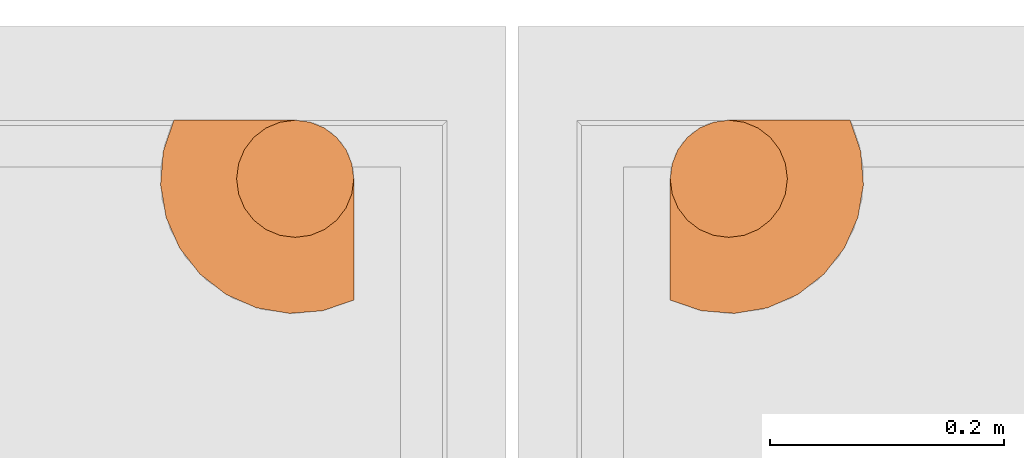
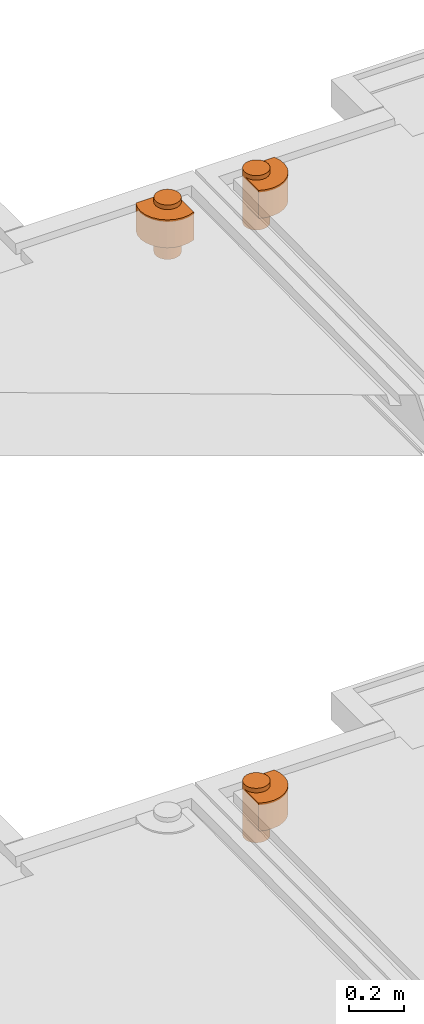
# One storey, part 25 of 31: 3 proxies, 3 elements without a shape of their own.
"""IFC2X3 building model written with IfcOpenShell, lengths in centimetres."""

from ifc_helpers import new_model, entity, si_unit, converted_unit, derived_unit, direction, frame, origin, place, context, subcontext, project, spatial, faceted_brep, source, transform, mapped, material, type_object, type_shapes, element, aggregate, save


model = new_model("IFC2X3")

# Units and contexts
model_context = context("Model", 3, precision=0.001, world=origin(), true_north=direction((6.12303176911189e-17, 1.0)))
body_context = subcontext(model_context, "Body", "Model", "MODEL_VIEW")
ifc_project = project(units=[si_unit("LENGTHUNIT", "METRE", prefix="CENTI"), si_unit("AREAUNIT", "SQUARE_METRE"), si_unit("VOLUMEUNIT", "CUBIC_METRE"), converted_unit("PLANEANGLEUNIT", "DEGREE", entity("IfcRatioMeasure", 0.0174532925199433), si_unit("PLANEANGLEUNIT", "RADIAN"), dimensions=[0, 0, 0, 0, 0, 0, 0]), si_unit("MASSUNIT", "GRAM", prefix="KILO"), derived_unit("MASSDENSITYUNIT", [(si_unit("MASSUNIT", "GRAM", prefix="KILO"), 1), (si_unit("LENGTHUNIT", "METRE"), -3)]), si_unit("TIMEUNIT", "SECOND"), si_unit("FREQUENCYUNIT", "HERTZ"), si_unit("THERMODYNAMICTEMPERATUREUNIT", "DEGREE_CELSIUS"), derived_unit("THERMALTRANSMITTANCEUNIT", [(si_unit("MASSUNIT", "GRAM", prefix="KILO"), 1), (si_unit("THERMODYNAMICTEMPERATUREUNIT", "KELVIN"), -1), (si_unit("TIMEUNIT", "SECOND"), -3)]), derived_unit("VOLUMETRICFLOWRATEUNIT", [(si_unit("LENGTHUNIT", "METRE"), 3), (si_unit("TIMEUNIT", "SECOND"), -1)]), si_unit("ELECTRICCURRENTUNIT", "AMPERE"), si_unit("ELECTRICVOLTAGEUNIT", "VOLT"), si_unit("POWERUNIT", "WATT"), si_unit("FORCEUNIT", "NEWTON"), si_unit("ILLUMINANCEUNIT", "LUX"), si_unit("LUMINOUSFLUXUNIT", "LUMEN"), si_unit("LUMINOUSINTENSITYUNIT", "CANDELA"), derived_unit("USERDEFINED", [(si_unit("MASSUNIT", "GRAM", prefix="KILO"), -1), (si_unit("LENGTHUNIT", "METRE"), -2), (si_unit("TIMEUNIT", "SECOND"), 3), (si_unit("LUMINOUSFLUXUNIT", "LUMEN"), 1)]), derived_unit("LINEARVELOCITYUNIT", [(si_unit("LENGTHUNIT", "METRE"), 1), (si_unit("TIMEUNIT", "SECOND"), -1)]), si_unit("PRESSUREUNIT", "PASCAL"), derived_unit("USERDEFINED", [(si_unit("LENGTHUNIT", "METRE"), -2), (si_unit("MASSUNIT", "GRAM", prefix="KILO"), 1), (si_unit("TIMEUNIT", "SECOND"), -2)])], contexts=[model_context])

# Site, building, storey
site_placement = place(None, origin())
site = spatial("IfcSite", under=ifc_project, at=site_placement, Name="Default", CompositionType="ELEMENT")
building_placement = place(site_placement, origin())
building = spatial("IfcBuilding", under=site, at=building_placement, Name="CAGE 03", CompositionType="ELEMENT")
storey_placement = place(building_placement, frame((0.0, 0.0, -400.0)))
storey = spatial("IfcBuildingStorey", under=building, at=storey_placement, Name="±0.00", CompositionType="ELEMENT", Elevation=-400.0)

# Assembly, proxy
assembly_1_placement = place(storey_placement, origin())
assembly_1 = element("IfcElementAssembly", 1, at=assembly_1_placement, inside=storey, Name="Assemblage Modèles génériques:BALCON TYPE 04", ObjectType="Assemblage Modèles génériques:BALCON TYPE 04", AssemblyPlace="NOTDEFINED", PredefinedType="USERDEFINED")
ifc_material = material(Name="BBGO_Résa")
building_element_proxy_type_1 = type_object("IfcBuildingElementProxyType", Name="Siphon de balcon", PredefinedType="NOTDEFINED", material=ifc_material)
shared_shape_1 = source(origin(), body_context, "Body", "Brep", [
    faceted_brep([(6.68784336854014, 14.159527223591, 9.69999999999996), (6.68784336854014, 14.1595272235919, 0.0), (6.18834125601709, 12.9536224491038, 0.0), (6.18834125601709, 12.9536224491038, 9.69999999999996), (6.68784336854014, 14.1595272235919, 22.0), (6.18834125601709, 12.9536224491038, 22.0), (6.18834125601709, 12.9536224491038, 24.0), (6.68784336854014, 14.1595272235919, 24.0), (6.01797038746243, 11.6595272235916, 0.0), (6.01797038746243, 11.6595272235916, 9.69999999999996), (6.01797038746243, 11.6595272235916, 22.0), (6.01797038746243, 11.6595272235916, 24.0), (6.18834125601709, 10.3654319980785, 9.69999999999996), (6.18834125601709, 10.3654319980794, 0.0), (6.68784336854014, 9.15952722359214, 0.0), (6.68784336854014, 9.15952722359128, 9.69999999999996), (6.18834125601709, 10.3654319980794, 22.0), (6.68784336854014, 9.15952722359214, 22.0), (6.68784336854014, 9.15952722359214, 24.0), (6.18834125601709, 10.3654319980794, 24.0), (7.48243648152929, 8.12399331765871, 0.0), (7.48243648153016, 8.12399331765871, 9.69999999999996), (7.48243648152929, 8.12399331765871, 24.0), (7.48243648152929, 8.12399331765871, 22.0), (7.48243648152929, 15.1950611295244, 9.69999999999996), (7.48243648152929, 15.1950611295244, 0.0), (7.48243648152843, 15.1950611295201, 22.0), (7.48243648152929, 15.1950611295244, 24.0), (8.51797038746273, 7.32940020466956, 9.69999999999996), (8.51797038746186, 7.32940020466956, 0.0), (9.72387516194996, 6.82989809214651, 0.0), (9.72387516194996, 6.82989809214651, 9.69999999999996), (8.51797038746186, 7.32940020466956, 22.0), (9.72387516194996, 6.82989809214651, 22.0), (9.72387516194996, 6.82989809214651, 24.0), (8.51797038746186, 7.32940020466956, 24.0), (11.0179703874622, 6.65952722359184, 0.0), (11.017970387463, 6.65952722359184, 9.69999999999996), (11.0179703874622, 6.65952722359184, 22.0), (11.0179703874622, 6.65952722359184, 24.0), (12.3120656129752, 6.82989809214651, 9.69999999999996), (12.3120656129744, 6.82989809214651, 0.0), (13.5179703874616, 7.32940020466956, 0.0), (13.5179703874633, 7.32940020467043, 9.69999999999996), (12.3120656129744, 6.82989809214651, 22.0), (13.5179703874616, 7.32940020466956, 22.0), (13.5179703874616, 7.32940020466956, 24.0), (12.3120656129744, 6.82989809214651, 24.0), (14.553504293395, 8.12399331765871, 0.0), (14.5535042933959, 8.12399331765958, 9.69999999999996), (14.553504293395, 8.12399331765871, 22.0), (14.553504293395, 8.12399331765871, 24.0), (15.3480974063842, 14.1595272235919, 22.0), (15.8475995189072, 12.9536224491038, 22.0), (16.0179703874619, 11.6595272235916, 22.0), (15.8475995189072, 10.3654319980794, 22.0), (15.3480974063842, 9.15952722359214, 22.0), (0.15952722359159, 7.87215187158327, 22.0), (1.41532336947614, 5.33187598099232, 22.0), (3.25417812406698, 3.17580577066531, 22.0), (5.56443893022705, 1.5348546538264, 22.0), (8.20583014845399, 0.508658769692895, 22.0), (11.017970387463, 0.15952722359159, 22.0), (13.8301106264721, 0.508658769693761, 22.0), (16.4715018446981, 1.53485465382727, 22.0), (18.7817626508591, 3.17580577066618, 22.0), (20.620617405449, 5.33187598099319, 22.0), (21.8764135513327, 7.872151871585, 22.0), (14.553504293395, 15.1950611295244, 22.0), (15.348097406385, 9.15952722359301, 9.69999999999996), (15.8475995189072, 10.3654319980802, 9.69999999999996), (16.0179703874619, 11.6595272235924, 9.69999999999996), (15.8475995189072, 12.9536224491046, 9.69999999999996), (15.3480974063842, 14.1595272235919, 9.69999999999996), (14.553504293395, 15.1950611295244, 9.69999999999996), (21.8764135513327, 7.872151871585, 9.69999999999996), (20.620617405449, 5.33187598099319, 9.69999999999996), (18.7817626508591, 3.17580577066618, 9.69999999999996), (16.4715018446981, 1.53485465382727, 9.69999999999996), (13.8301106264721, 0.508658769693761, 9.69999999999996), (11.017970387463, 0.15952722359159, 9.69999999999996), (8.20583014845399, 0.508658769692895, 9.69999999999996), (5.56443893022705, 1.5348546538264, 9.69999999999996), (3.25417812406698, 3.17580577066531, 9.69999999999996), (1.41532336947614, 5.33187598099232, 9.69999999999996), (0.15952722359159, 7.87215187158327, 9.69999999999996), (0.15952722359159, 7.87215187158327, 21.3763717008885), (21.8764135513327, 7.872151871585, 21.5299497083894), (15.3480974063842, 9.15952722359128, 24.0), (15.8475995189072, 10.3654319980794, 24.0), (16.0179703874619, 11.6595272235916, 24.0), (15.8475995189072, 12.9536224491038, 24.0), (15.3480974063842, 14.159527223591, 24.0), (14.553504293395, 15.1950611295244, 24.0), (13.5179703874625, 15.9896542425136, 24.0), (12.3120656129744, 16.4891563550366, 24.0), (11.0179703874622, 16.6595272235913, 24.0), (9.72387516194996, 16.4891563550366, 24.0), (8.51797038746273, 15.9896542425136, 24.0), (15.8475995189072, 10.3654319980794, 0.0), (15.3480974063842, 9.15952722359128, 0.0), (8.51797038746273, 15.9896542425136, 0.0), (9.72387516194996, 16.4891563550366, 0.0), (11.0179703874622, 16.6595272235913, 0.0), (12.3120656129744, 16.4891563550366, 0.0), (13.5179703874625, 15.9896542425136, 0.0), (14.553504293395, 15.1950611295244, 0.0), (15.3480974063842, 14.159527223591, 0.0), (15.8475995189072, 12.9536224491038, 0.0), (16.0179703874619, 11.6595272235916, 0.0)], [[[0, 1, 2, 3]], [[4, 5, 6, 7]], [[8, 9, 3, 2]], [[5, 10, 11, 6]], [[12, 13, 14, 15]], [[16, 17, 18, 19]], [[8, 13, 12, 9]], [[10, 16, 19, 11]], [[15, 14, 20, 21]], [[22, 18, 17, 23]], [[1, 0, 24, 25]], [[26, 4, 7, 27]], [[28, 29, 30, 31]], [[32, 33, 34, 35]], [[36, 37, 31, 30]], [[33, 38, 39, 34]], [[40, 41, 42, 43]], [[44, 45, 46, 47]], [[36, 41, 40, 37]], [[38, 44, 47, 39]], [[43, 42, 48, 49]], [[45, 50, 51, 46]], [[29, 28, 21, 20]], [[32, 35, 22, 23]], [[52, 53, 54, 55, 56, 50, 45, 44, 38, 33, 32, 23, 17, 16, 10, 5, 4, 26, 57, 58, 59, 60, 61, 62, 63, 64, 65, 66, 67, 68]], [[21, 28, 31, 37, 40, 43, 49, 69, 70, 71, 72, 73, 74, 75, 76, 77, 78, 79, 80, 81, 82, 83, 84, 85, 24, 0, 3, 9, 12, 15]], [[57, 26, 24, 85, 86]], [[86, 85, 84, 58, 57]], [[83, 59, 58, 84]], [[60, 82, 81, 61]], [[83, 82, 60, 59]], [[61, 81, 80, 62]], [[78, 64, 63, 79]], [[77, 65, 64, 78]], [[76, 75, 87, 67, 66]], [[77, 76, 66, 65]], [[79, 63, 62, 80]], [[68, 67, 87, 75, 74]], [[18, 22, 35, 34, 39, 47, 46, 51, 88, 89, 90, 91, 92, 93, 94, 95, 96, 97, 98, 27, 7, 6, 11, 19]], [[99, 100, 48, 42, 41, 36, 30, 29, 20, 14, 13, 8, 2, 1, 25, 101, 102, 103, 104, 105, 106, 107, 108, 109]], [[48, 100, 69, 49]], [[51, 50, 56, 88]], [[99, 70, 69, 100]], [[56, 55, 89, 88]], [[109, 108, 72, 71]], [[54, 53, 91, 90]], [[109, 71, 70, 99]], [[54, 90, 89, 55]], [[108, 107, 73, 72]], [[91, 53, 52, 92]], [[74, 106, 105, 94, 93, 68]], [[107, 106, 74, 73]], [[52, 68, 93, 92]], [[94, 105, 104, 95]], [[101, 25, 24, 26, 27, 98]], [[96, 103, 102, 97]], [[101, 98, 97, 102]], [[95, 104, 103, 96]]]),
])
type_shapes(building_element_proxy_type_1, [shared_shape_1])
proxy_1_placement = place(assembly_1_placement, frame((7100.31946933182, 3949.62525373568, 988.0), z_axis=(0.0, 0.0, 1.0), x_axis=(0.707106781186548, 0.707106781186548, 0.0)))
proxy_1 = element("IfcBuildingElementProxy", 2, at=proxy_1_placement, type_object=building_element_proxy_type_1, material=ifc_material, Name="Siphon de balcon5:Siphon de balcon", ObjectType="Siphon de balcon", context=body_context, shape_type="MappedRepresentation", body=[
    mapped(shared_shape_1, transform((0.0, 0.0, 0.0), scale=1.0)),
])
aggregate(assembly_1, [proxy_1])

assembly_2_placement = place(storey_placement, origin())
assembly_2 = element("IfcElementAssembly", 3, at=assembly_2_placement, inside=storey, Name="Assemblage Modèles génériques:BALCON TYPE 03", ObjectType="Assemblage Modèles génériques:BALCON TYPE 03", AssemblyPlace="NOTDEFINED", PredefinedType="USERDEFINED")
building_element_proxy_type_2 = type_object("IfcBuildingElementProxyType", Name="Siphon de balcon", PredefinedType="NOTDEFINED", material=ifc_material)
shared_shape_2 = source(origin(), body_context, "Body", "Brep", [
    faceted_brep([(6.68784336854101, 14.159527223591, 9.69999999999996), (6.68784336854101, 14.1595272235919, 0.0), (6.18834125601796, 12.9536224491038, 0.0), (6.18834125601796, 12.9536224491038, 9.69999999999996), (6.68784336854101, 14.1595272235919, 22.0), (6.18834125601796, 12.9536224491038, 22.0), (6.18834125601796, 12.9536224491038, 24.0), (6.68784336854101, 14.1595272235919, 24.0), (6.01797038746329, 11.6595272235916, 0.0), (6.01797038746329, 11.6595272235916, 9.69999999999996), (6.01797038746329, 11.6595272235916, 22.0), (6.01797038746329, 11.6595272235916, 24.0), (6.18834125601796, 10.3654319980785, 9.69999999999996), (6.18834125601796, 10.3654319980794, 0.0), (6.68784336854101, 9.15952722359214, 0.0), (6.68784336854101, 9.15952722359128, 9.69999999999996), (6.18834125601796, 10.3654319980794, 22.0), (6.68784336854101, 9.15952722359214, 22.0), (6.68784336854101, 9.15952722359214, 24.0), (6.18834125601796, 10.3654319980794, 24.0), (7.48243648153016, 8.12399331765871, 0.0), (7.48243648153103, 8.12399331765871, 9.69999999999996), (7.48243648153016, 8.12399331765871, 24.0), (7.48243648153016, 8.12399331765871, 22.0), (7.48243648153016, 15.1950611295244, 9.69999999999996), (7.48243648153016, 15.1950611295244, 0.0), (7.48243648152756, 15.1950611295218, 22.0), (7.48243648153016, 15.1950611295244, 24.0), (8.51797038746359, 7.32940020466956, 9.69999999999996), (8.51797038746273, 7.32940020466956, 0.0), (9.72387516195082, 6.82989809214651, 0.0), (9.72387516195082, 6.82989809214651, 9.69999999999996), (8.51797038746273, 7.32940020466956, 22.0), (9.72387516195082, 6.82989809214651, 22.0), (9.72387516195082, 6.82989809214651, 24.0), (8.51797038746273, 7.32940020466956, 24.0), (11.017970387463, 6.65952722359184, 0.0), (11.0179703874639, 6.65952722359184, 9.69999999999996), (11.017970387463, 6.65952722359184, 22.0), (11.017970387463, 6.65952722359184, 24.0), (12.3120656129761, 6.82989809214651, 9.69999999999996), (12.3120656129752, 6.82989809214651, 0.0), (13.5179703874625, 7.32940020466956, 0.0), (13.5179703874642, 7.32940020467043, 9.69999999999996), (12.3120656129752, 6.82989809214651, 22.0), (13.5179703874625, 7.32940020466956, 22.0), (13.5179703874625, 7.32940020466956, 24.0), (12.3120656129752, 6.82989809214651, 24.0), (14.5535042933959, 8.12399331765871, 0.0), (14.5535042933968, 8.12399331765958, 9.69999999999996), (14.5535042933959, 8.12399331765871, 22.0), (14.5535042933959, 8.12399331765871, 24.0), (15.348097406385, 14.1595272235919, 22.0), (15.8475995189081, 12.9536224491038, 22.0), (16.0179703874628, 11.6595272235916, 22.0), (15.8475995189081, 10.3654319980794, 22.0), (15.348097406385, 9.15952722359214, 22.0), (0.15952722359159, 7.87215187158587, 22.0), (1.41532336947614, 5.33187598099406, 22.0), (3.25417812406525, 3.17580577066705, 22.0), (5.56443893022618, 1.53485465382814, 22.0), (8.20583014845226, 0.508658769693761, 22.0), (11.0179703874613, 0.15952722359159, 22.0), (13.8301106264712, 0.508658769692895, 22.0), (16.4715018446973, 1.5348546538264, 22.0), (18.7817626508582, 3.17580577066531, 22.0), (20.620617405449, 5.33187598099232, 22.0), (21.8764135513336, 7.87215187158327, 22.0), (14.5535042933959, 15.1950611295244, 22.0), (15.348097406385, 9.15952722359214, 9.69999999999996), (15.8475995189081, 10.3654319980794, 9.69999999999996), (16.0179703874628, 11.6595272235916, 9.69999999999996), (15.8475995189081, 12.9536224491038, 9.69999999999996), (15.348097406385, 14.159527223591, 9.69999999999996), (14.5535042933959, 15.1950611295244, 9.69999999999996), (21.8764135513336, 7.87215187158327, 9.69999999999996), (20.620617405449, 5.33187598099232, 9.69999999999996), (18.7817626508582, 3.17580577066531, 9.69999999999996), (16.4715018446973, 1.5348546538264, 9.69999999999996), (13.8301106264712, 0.508658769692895, 9.69999999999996), (11.0179703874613, 0.15952722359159, 9.69999999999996), (8.20583014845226, 0.508658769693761, 9.69999999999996), (5.56443893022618, 1.53485465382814, 9.69999999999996), (3.25417812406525, 3.17580577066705, 9.69999999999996), (1.41532336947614, 5.33187598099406, 9.69999999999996), (0.15952722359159, 7.87215187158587, 9.69999999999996), (0.15952722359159, 7.87215187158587, 21.5299497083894), (21.8764135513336, 7.87215187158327, 21.3763717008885), (15.348097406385, 9.15952722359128, 24.0), (15.8475995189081, 10.3654319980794, 24.0), (16.0179703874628, 11.6595272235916, 24.0), (15.8475995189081, 12.9536224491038, 24.0), (15.348097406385, 14.159527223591, 24.0), (14.5535042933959, 15.1950611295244, 24.0), (13.5179703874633, 15.9896542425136, 24.0), (12.3120656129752, 16.4891563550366, 24.0), (11.017970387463, 16.6595272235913, 24.0), (9.72387516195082, 16.4891563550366, 24.0), (8.51797038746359, 15.9896542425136, 24.0), (15.8475995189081, 10.3654319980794, 0.0), (15.348097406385, 9.15952722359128, 0.0), (8.51797038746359, 15.9896542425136, 0.0), (9.72387516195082, 16.4891563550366, 0.0), (11.017970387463, 16.6595272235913, 0.0), (12.3120656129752, 16.4891563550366, 0.0), (13.5179703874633, 15.9896542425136, 0.0), (14.5535042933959, 15.1950611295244, 0.0), (15.348097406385, 14.159527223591, 0.0), (15.8475995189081, 12.9536224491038, 0.0), (16.0179703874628, 11.6595272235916, 0.0)], [[[0, 1, 2, 3]], [[4, 5, 6, 7]], [[8, 9, 3, 2]], [[5, 10, 11, 6]], [[12, 13, 14, 15]], [[16, 17, 18, 19]], [[8, 13, 12, 9]], [[10, 16, 19, 11]], [[15, 14, 20, 21]], [[22, 18, 17, 23]], [[1, 0, 24, 25]], [[26, 4, 7, 27]], [[28, 29, 30, 31]], [[32, 33, 34, 35]], [[36, 37, 31, 30]], [[33, 38, 39, 34]], [[40, 41, 42, 43]], [[44, 45, 46, 47]], [[36, 41, 40, 37]], [[38, 44, 47, 39]], [[43, 42, 48, 49]], [[45, 50, 51, 46]], [[29, 28, 21, 20]], [[32, 35, 22, 23]], [[52, 53, 54, 55, 56, 50, 45, 44, 38, 33, 32, 23, 17, 16, 10, 5, 4, 26, 57, 58, 59, 60, 61, 62, 63, 64, 65, 66, 67, 68]], [[21, 28, 31, 37, 40, 43, 49, 69, 70, 71, 72, 73, 74, 75, 76, 77, 78, 79, 80, 81, 82, 83, 84, 85, 24, 0, 3, 9, 12, 15]], [[57, 26, 24, 85, 86]], [[86, 85, 84, 58, 57]], [[83, 59, 58, 84]], [[60, 82, 81, 61]], [[83, 82, 60, 59]], [[61, 81, 80, 62]], [[78, 64, 63, 79]], [[77, 65, 64, 78]], [[76, 75, 87, 67, 66]], [[77, 76, 66, 65]], [[79, 63, 62, 80]], [[68, 67, 87, 75, 74]], [[18, 22, 35, 34, 39, 47, 46, 51, 88, 89, 90, 91, 92, 93, 94, 95, 96, 97, 98, 27, 7, 6, 11, 19]], [[99, 100, 48, 42, 41, 36, 30, 29, 20, 14, 13, 8, 2, 1, 25, 101, 102, 103, 104, 105, 106, 107, 108, 109]], [[48, 100, 69, 49]], [[51, 50, 56, 88]], [[99, 70, 69, 100]], [[56, 55, 89, 88]], [[109, 108, 72, 71]], [[54, 53, 91, 90]], [[109, 71, 70, 99]], [[54, 90, 89, 55]], [[108, 107, 73, 72]], [[91, 53, 52, 92]], [[74, 106, 105, 94, 93, 68]], [[107, 106, 74, 73]], [[52, 68, 93, 92]], [[94, 105, 104, 95]], [[101, 25, 24, 26, 27, 98]], [[96, 103, 102, 97]], [[101, 98, 97, 102]], [[95, 104, 103, 96]]]),
])
type_shapes(building_element_proxy_type_2, [shared_shape_2])
proxy_2_placement = place(assembly_2_placement, frame((7046.83040780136, 3965.20701688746, 1258.0), z_axis=(0.0, 0.0, 1.0), x_axis=(0.707106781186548, -0.707106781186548, 0.0)))
proxy_2 = element("IfcBuildingElementProxy", 4, at=proxy_2_placement, type_object=building_element_proxy_type_2, material=ifc_material, Name="Siphon de balcon6:Siphon de balcon", ObjectType="Siphon de balcon", context=body_context, shape_type="MappedRepresentation", body=[
    mapped(shared_shape_2, transform((0.0, 0.0, 0.0), scale=1.0)),
])
aggregate(assembly_2, [proxy_2])

assembly_3_placement = place(storey_placement, origin())
assembly_3 = element("IfcElementAssembly", 5, at=assembly_3_placement, inside=storey, Name="Assemblage Modèles génériques:BALCON TYPE 04", ObjectType="Assemblage Modèles génériques:BALCON TYPE 04", AssemblyPlace="NOTDEFINED", PredefinedType="USERDEFINED")
building_element_proxy_type_3 = type_object("IfcBuildingElementProxyType", Name="Siphon de balcon", PredefinedType="NOTDEFINED", material=ifc_material)
shared_shape_3 = source(origin(), body_context, "Body", "Brep", [
    faceted_brep([(6.68784336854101, 14.159527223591, 9.69999999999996), (6.68784336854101, 14.1595272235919, 0.0), (6.18834125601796, 12.9536224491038, 0.0), (6.18834125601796, 12.9536224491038, 9.69999999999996), (6.68784336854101, 14.1595272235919, 22.0), (6.18834125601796, 12.9536224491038, 22.0), (6.18834125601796, 12.9536224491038, 24.0), (6.68784336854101, 14.1595272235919, 24.0), (6.01797038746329, 11.6595272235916, 0.0), (6.01797038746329, 11.6595272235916, 9.69999999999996), (6.01797038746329, 11.6595272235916, 22.0), (6.01797038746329, 11.6595272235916, 24.0), (6.18834125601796, 10.3654319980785, 9.69999999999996), (6.18834125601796, 10.3654319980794, 0.0), (6.68784336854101, 9.15952722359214, 0.0), (6.68784336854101, 9.15952722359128, 9.69999999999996), (6.18834125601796, 10.3654319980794, 22.0), (6.68784336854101, 9.15952722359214, 22.0), (6.68784336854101, 9.15952722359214, 24.0), (6.18834125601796, 10.3654319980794, 24.0), (7.48243648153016, 8.12399331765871, 0.0), (7.48243648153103, 8.12399331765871, 9.69999999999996), (7.48243648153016, 8.12399331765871, 24.0), (7.48243648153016, 8.12399331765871, 22.0), (7.48243648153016, 15.1950611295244, 9.69999999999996), (7.48243648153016, 15.1950611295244, 0.0), (7.48243648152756, 15.1950611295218, 22.0), (7.48243648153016, 15.1950611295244, 24.0), (8.51797038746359, 7.32940020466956, 9.69999999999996), (8.51797038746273, 7.32940020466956, 0.0), (9.72387516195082, 6.82989809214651, 0.0), (9.72387516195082, 6.82989809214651, 9.69999999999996), (8.51797038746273, 7.32940020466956, 22.0), (9.72387516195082, 6.82989809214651, 22.0), (9.72387516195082, 6.82989809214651, 24.0), (8.51797038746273, 7.32940020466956, 24.0), (11.017970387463, 6.65952722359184, 0.0), (11.017970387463, 6.65952722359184, 9.69999999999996), (11.017970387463, 6.65952722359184, 22.0), (11.017970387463, 6.65952722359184, 24.0), (12.3120656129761, 6.82989809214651, 9.69999999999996), (12.3120656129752, 6.82989809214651, 0.0), (13.5179703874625, 7.32940020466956, 0.0), (13.5179703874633, 7.32940020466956, 9.69999999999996), (12.3120656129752, 6.82989809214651, 22.0), (13.5179703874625, 7.32940020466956, 22.0), (13.5179703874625, 7.32940020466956, 24.0), (12.3120656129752, 6.82989809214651, 24.0), (14.5535042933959, 8.12399331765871, 0.0), (14.5535042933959, 8.12399331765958, 9.69999999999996), (14.5535042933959, 8.12399331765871, 22.0), (14.5535042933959, 8.12399331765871, 24.0), (15.348097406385, 14.1595272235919, 22.0), (15.8475995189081, 12.9536224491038, 22.0), (16.0179703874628, 11.6595272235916, 22.0), (15.8475995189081, 10.3654319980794, 22.0), (15.348097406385, 9.15952722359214, 22.0), (0.15952722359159, 7.87215187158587, 22.0), (1.41532336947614, 5.33187598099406, 22.0), (3.25417812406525, 3.17580577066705, 22.0), (5.56443893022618, 1.53485465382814, 22.0), (8.20583014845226, 0.508658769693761, 22.0), (11.0179703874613, 0.15952722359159, 22.0), (13.8301106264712, 0.508658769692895, 22.0), (16.4715018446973, 1.5348546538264, 22.0), (18.7817626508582, 3.17580577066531, 22.0), (20.620617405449, 5.33187598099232, 22.0), (21.8764135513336, 7.87215187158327, 22.0), (14.5535042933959, 15.1950611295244, 22.0), (15.348097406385, 9.15952722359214, 9.69999999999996), (15.8475995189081, 10.3654319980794, 9.69999999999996), (16.0179703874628, 11.6595272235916, 9.69999999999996), (15.8475995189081, 12.9536224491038, 9.69999999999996), (15.348097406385, 14.159527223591, 9.69999999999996), (14.5535042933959, 15.1950611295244, 9.69999999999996), (21.8764135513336, 7.87215187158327, 9.69999999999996), (20.620617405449, 5.33187598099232, 9.69999999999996), (18.7817626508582, 3.17580577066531, 9.69999999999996), (16.4715018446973, 1.5348546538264, 9.69999999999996), (13.8301106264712, 0.508658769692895, 9.69999999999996), (11.0179703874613, 0.15952722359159, 9.69999999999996), (8.20583014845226, 0.508658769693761, 9.69999999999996), (5.56443893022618, 1.53485465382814, 9.69999999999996), (3.25417812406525, 3.17580577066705, 9.69999999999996), (1.41532336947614, 5.33187598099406, 9.69999999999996), (0.15952722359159, 7.87215187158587, 9.69999999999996), (0.15952722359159, 7.87215187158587, 21.3763717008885), (21.8764135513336, 7.87215187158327, 21.5299497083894), (15.348097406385, 9.15952722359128, 24.0), (15.8475995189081, 10.3654319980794, 24.0), (16.0179703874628, 11.6595272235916, 24.0), (15.8475995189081, 12.9536224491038, 24.0), (15.348097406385, 14.159527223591, 24.0), (14.5535042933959, 15.1950611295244, 24.0), (13.5179703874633, 15.9896542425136, 24.0), (12.3120656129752, 16.4891563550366, 24.0), (11.017970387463, 16.6595272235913, 24.0), (9.72387516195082, 16.4891563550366, 24.0), (8.51797038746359, 15.9896542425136, 24.0), (15.8475995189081, 10.3654319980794, 0.0), (15.348097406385, 9.15952722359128, 0.0), (8.51797038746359, 15.9896542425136, 0.0), (9.72387516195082, 16.4891563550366, 0.0), (11.017970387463, 16.6595272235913, 0.0), (12.3120656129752, 16.4891563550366, 0.0), (13.5179703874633, 15.9896542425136, 0.0), (14.5535042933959, 15.1950611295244, 0.0), (15.348097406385, 14.159527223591, 0.0), (15.8475995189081, 12.9536224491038, 0.0), (16.0179703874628, 11.6595272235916, 0.0)], [[[0, 1, 2, 3]], [[4, 5, 6, 7]], [[8, 9, 3, 2]], [[5, 10, 11, 6]], [[12, 13, 14, 15]], [[16, 17, 18, 19]], [[8, 13, 12, 9]], [[10, 16, 19, 11]], [[15, 14, 20, 21]], [[22, 18, 17, 23]], [[1, 0, 24, 25]], [[26, 4, 7, 27]], [[28, 29, 30, 31]], [[32, 33, 34, 35]], [[36, 37, 31, 30]], [[33, 38, 39, 34]], [[40, 41, 42, 43]], [[44, 45, 46, 47]], [[36, 41, 40, 37]], [[38, 44, 47, 39]], [[43, 42, 48, 49]], [[45, 50, 51, 46]], [[29, 28, 21, 20]], [[32, 35, 22, 23]], [[52, 53, 54, 55, 56, 50, 45, 44, 38, 33, 32, 23, 17, 16, 10, 5, 4, 26, 57, 58, 59, 60, 61, 62, 63, 64, 65, 66, 67, 68]], [[21, 28, 31, 37, 40, 43, 49, 69, 70, 71, 72, 73, 74, 75, 76, 77, 78, 79, 80, 81, 82, 83, 84, 85, 24, 0, 3, 9, 12, 15]], [[57, 26, 24, 85, 86]], [[86, 85, 84, 58, 57]], [[83, 59, 58, 84]], [[60, 82, 81, 61]], [[83, 82, 60, 59]], [[61, 81, 80, 62]], [[78, 64, 63, 79]], [[77, 65, 64, 78]], [[76, 75, 87, 67, 66]], [[77, 76, 66, 65]], [[79, 63, 62, 80]], [[68, 67, 87, 75, 74]], [[18, 22, 35, 34, 39, 47, 46, 51, 88, 89, 90, 91, 92, 93, 94, 95, 96, 97, 98, 27, 7, 6, 11, 19]], [[99, 100, 48, 42, 41, 36, 30, 29, 20, 14, 13, 8, 2, 1, 25, 101, 102, 103, 104, 105, 106, 107, 108, 109]], [[48, 100, 69, 49]], [[51, 50, 56, 88]], [[99, 70, 69, 100]], [[56, 55, 89, 88]], [[109, 108, 72, 71]], [[54, 53, 91, 90]], [[109, 71, 70, 99]], [[54, 90, 89, 55]], [[108, 107, 73, 72]], [[91, 53, 52, 92]], [[74, 106, 105, 94, 93, 68]], [[107, 106, 74, 73]], [[52, 68, 93, 92]], [[94, 105, 104, 95]], [[101, 25, 24, 26, 27, 98]], [[96, 103, 102, 97]], [[101, 98, 97, 102]], [[95, 104, 103, 96]]]),
])
type_shapes(building_element_proxy_type_3, [shared_shape_3])
proxy_3_placement = place(assembly_3_placement, frame((7100.31946933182, 3949.62525373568, 1258.0), z_axis=(0.0, 0.0, 1.0), x_axis=(0.707106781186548, 0.707106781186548, 0.0)))
proxy_3 = element("IfcBuildingElementProxy", 6, at=proxy_3_placement, type_object=building_element_proxy_type_3, material=ifc_material, Name="Siphon de balcon7:Siphon de balcon", ObjectType="Siphon de balcon", context=body_context, shape_type="MappedRepresentation", body=[
    mapped(shared_shape_3, transform((0.0, 0.0, 0.0), scale=1.0)),
])
aggregate(assembly_3, [proxy_3])

save(model, "model.ifc")
